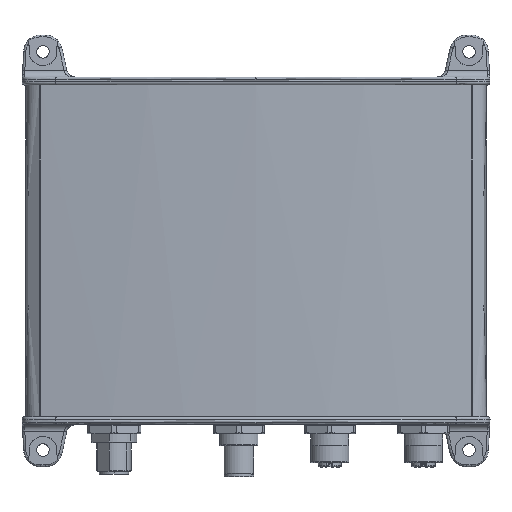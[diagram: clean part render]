
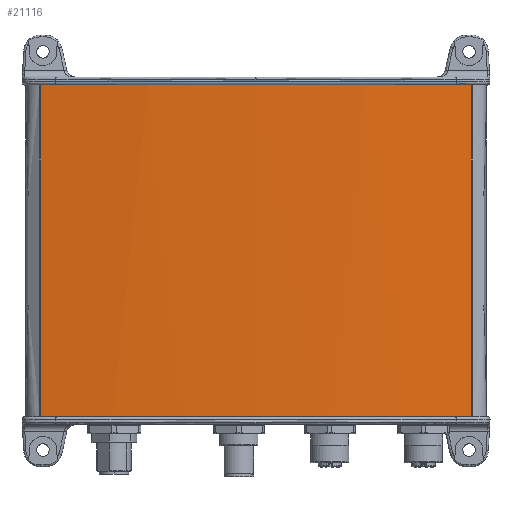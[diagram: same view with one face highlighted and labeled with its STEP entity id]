
A CAD part, top view. The second image highlights one B-rep face of the part: STEP entity #21116.
In plain terms, the highlighted cylindrical face has radius 597.11 mm (diameter 1194.22 mm), a partial arc.
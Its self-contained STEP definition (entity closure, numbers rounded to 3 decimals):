
#619 = CARTESIAN_POINT ( 'NONE',  ( -75.827, 57.3, 47.043 ) ) ;
#821 = EDGE_CURVE ( 'NONE', #41451, #43335, #21105, .T. ) ;
#7413 = DIRECTION ( 'NONE',  ( -1., 0., 0. ) ) ;
#7821 = DIRECTION ( 'NONE',  ( 0., 0., -1. ) ) ;
#8817 = ORIENTED_EDGE ( 'NONE', *, *, #10984, .T. ) ;
#10040 = DIRECTION ( 'NONE',  ( 0., 1., 0. ) ) ;
#10984 = EDGE_CURVE ( 'NONE', #15918, #43335, #11254, .T. ) ;
#11128 = ORIENTED_EDGE ( 'NONE', *, *, #821, .F. ) ;
#11254 = CIRCLE ( 'NONE', #15308, 597.11 ) ;
#11677 = DIRECTION ( 'NONE',  ( 0., -1., 0. ) ) ;
#12708 = ORIENTED_EDGE ( 'NONE', *, *, #48258, .F. ) ;
#15157 = CARTESIAN_POINT ( 'NONE',  ( 75.827, 57.3, 47.043 ) ) ;
#15308 = AXIS2_PLACEMENT_3D ( 'NONE', #18635, #37837, #7821 ) ;
#15918 = VERTEX_POINT ( 'NONE', #15157 ) ;
#16050 = VECTOR ( 'NONE', #11677, 1000. ) ;
#16360 = VECTOR ( 'NONE', #10040, 1000. ) ;
#17876 = DIRECTION ( 'NONE',  ( 0., -1., 0. ) ) ;
#18635 = CARTESIAN_POINT ( 'NONE',  ( 0., 57.3, -545.233 ) ) ;
#18819 = LINE ( 'NONE', #33846, #16050 ) ;
#21105 = LINE ( 'NONE', #43761, #16360 ) ;
#21116 = ADVANCED_FACE ( 'NONE', ( #26579 ), #38406, .T. ) ;
#22101 = EDGE_LOOP ( 'NONE', ( #11128, #40075, #12708, #8817 ) ) ;
#23116 = CARTESIAN_POINT ( 'NONE',  ( 0., 190.179, -545.233 ) ) ;
#23760 = AXIS2_PLACEMENT_3D ( 'NONE', #23116, #48524, #7413 ) ;
#26579 = FACE_OUTER_BOUND ( 'NONE', #22101, .T. ) ;
#33846 = CARTESIAN_POINT ( 'NONE',  ( 75.827, 190.179, 47.043 ) ) ;
#36587 = CARTESIAN_POINT ( 'NONE',  ( 0., -59.5, -545.233 ) ) ;
#37663 = CARTESIAN_POINT ( 'NONE',  ( 75.827, -59.5, 47.043 ) ) ;
#37837 = DIRECTION ( 'NONE',  ( 0., -1., 0. ) ) ;
#38406 = CYLINDRICAL_SURFACE ( 'NONE', #23760, 597.11 ) ;
#40075 = ORIENTED_EDGE ( 'NONE', *, *, #44679, .F. ) ;
#41451 = VERTEX_POINT ( 'NONE', #46851 ) ;
#41814 = VERTEX_POINT ( 'NONE', #37663 ) ;
#43335 = VERTEX_POINT ( 'NONE', #619 ) ;
#43761 = CARTESIAN_POINT ( 'NONE',  ( -75.827, 190.179, 47.043 ) ) ;
#44679 = EDGE_CURVE ( 'NONE', #41814, #41451, #45751, .T. ) ;
#45751 = CIRCLE ( 'NONE', #45853, 597.11 ) ;
#45853 = AXIS2_PLACEMENT_3D ( 'NONE', #36587, #17876, #47917 ) ;
#46851 = CARTESIAN_POINT ( 'NONE',  ( -75.827, -59.5, 47.043 ) ) ;
#47917 = DIRECTION ( 'NONE',  ( 0., 0., -1. ) ) ;
#48258 = EDGE_CURVE ( 'NONE', #15918, #41814, #18819, .T. ) ;
#48524 = DIRECTION ( 'NONE',  ( 0., -1., 0. ) ) ;
